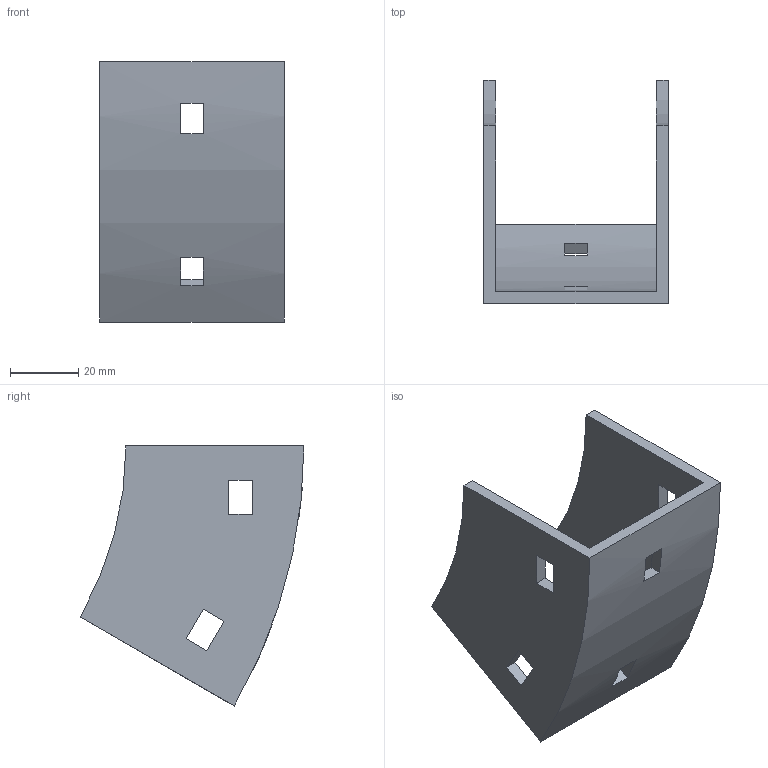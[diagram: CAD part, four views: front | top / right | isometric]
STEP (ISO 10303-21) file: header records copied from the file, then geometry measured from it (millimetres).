
FILE_DESCRIPTION (( 'STEP AP214' ), '1' );
FILE_NAME ('32B1B050.step', '2025-02-21T09:43:16', ( '' ), ( '' ), 'SwSTEP 2.0', 'SolidWorks 2023', '' );
FILE_SCHEMA (( 'AUTOMOTIVE_DESIGN' ));
Length unit declared in the file: millimetre
Products named in the file (1): 32B1B050
Bounding box: 54 x 65.4 x 76 mm (x, y, z)
Volume: 35563.6 mm3; surface area: 22446.4 mm2
Topology: 1 solids, 1 shells, 34 faces, 96 edges, 64 vertices
Faces by surface type: plane 30, cylinder 4
Entity records: 1143 total; most frequent: CARTESIAN_POINT 195, ORIENTED_EDGE 192, DIRECTION 182, EDGE_CURVE 96, LINE 80, VECTOR 80, VERTEX_POINT 64, AXIS2_PLACEMENT_3D 51
